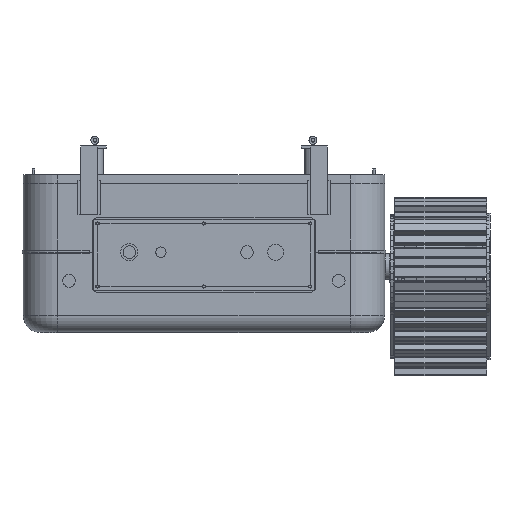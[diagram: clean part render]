
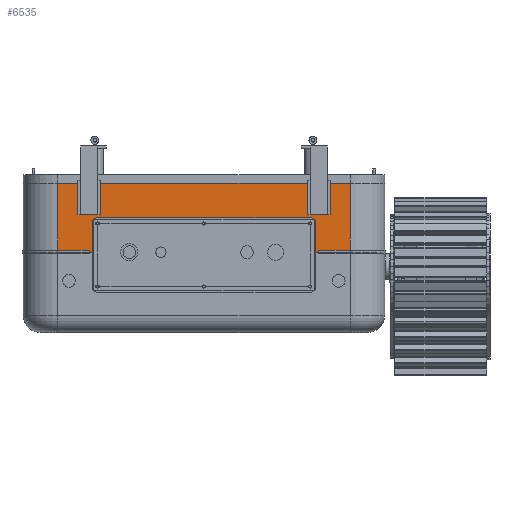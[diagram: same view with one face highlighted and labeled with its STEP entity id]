
A CAD part, left-side view. The second image highlights one B-rep face of the part: STEP entity #6535.
In plain terms, the highlighted planar face has unit normal (-1, 0, 0).
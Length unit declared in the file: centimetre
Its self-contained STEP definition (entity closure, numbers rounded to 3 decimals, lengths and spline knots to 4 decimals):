
#6535 = ADVANCED_FACE('',(#6536),#6550,.F.);
#6536 = FACE_BOUND('',#6537,.F.);
#6537 = EDGE_LOOP('',(#6538,#6573,#6599,#6625,#6651,#6677,#6703,#6731));
#6538 = ORIENTED_EDGE('',*,*,#6539,.F.);
#6539 = EDGE_CURVE('',#6540,#6542,#6544,.T.);
#6540 = VERTEX_POINT('',#6541);
#6541 = CARTESIAN_POINT('',(4.,-51.,43.));
#6542 = VERTEX_POINT('',#6543);
#6543 = CARTESIAN_POINT('',(4.,-51.,67.));
#6544 = SURFACE_CURVE('',#6545,(#6549,#6561),.PCURVE_S1.);
#6545 = LINE('',#6546,#6547);
#6546 = CARTESIAN_POINT('',(4.,-51.,15.));
#6547 = VECTOR('',#6548,0.1);
#6548 = DIRECTION('',(0.,0.,1.));
#6549 = PCURVE('',#6550,#6555);
#6550 = PLANE('',#6551);
#6551 = AXIS2_PLACEMENT_3D('',#6552,#6553,#6554);
#6552 = CARTESIAN_POINT('',(4.,-63.,15.));
#6553 = DIRECTION('',(1.,0.,0.));
#6554 = DIRECTION('',(0.,0.,1.));
#6555 = DEFINITIONAL_REPRESENTATION('',(#6556),#6560);
#6556 = LINE('',#6557,#6558);
#6557 = CARTESIAN_POINT('',(0.,-12.));
#6558 = VECTOR('',#6559,1.);
#6559 = DIRECTION('',(1.,0.));
#6560 = ( GEOMETRIC_REPRESENTATION_CONTEXT(2) 
PARAMETRIC_REPRESENTATION_CONTEXT() REPRESENTATION_CONTEXT('2D SPACE',''
  ) );
#6561 = PCURVE('',#6562,#6567);
#6562 = CYLINDRICAL_SURFACE('',#6563,12.);
#6563 = AXIS2_PLACEMENT_3D('',#6564,#6565,#6566);
#6564 = CARTESIAN_POINT('',(16.,-51.,15.));
#6565 = DIRECTION('',(0.,0.,1.));
#6566 = DIRECTION('',(-1.,-0.,0.));
#6567 = DEFINITIONAL_REPRESENTATION('',(#6568),#6572);
#6568 = LINE('',#6569,#6570);
#6569 = CARTESIAN_POINT('',(0.,0.));
#6570 = VECTOR('',#6571,1.);
#6571 = DIRECTION('',(0.,1.));
#6572 = ( GEOMETRIC_REPRESENTATION_CONTEXT(2) 
PARAMETRIC_REPRESENTATION_CONTEXT() REPRESENTATION_CONTEXT('2D SPACE',''
  ) );
#6573 = ORIENTED_EDGE('',*,*,#6574,.F.);
#6574 = EDGE_CURVE('',#6575,#6540,#6577,.T.);
#6575 = VERTEX_POINT('',#6576);
#6576 = CARTESIAN_POINT('',(4.,-38.,43.));
#6577 = SURFACE_CURVE('',#6578,(#6582,#6588),.PCURVE_S1.);
#6578 = LINE('',#6579,#6580);
#6579 = CARTESIAN_POINT('',(4.,-66.5,43.));
#6580 = VECTOR('',#6581,0.1);
#6581 = DIRECTION('',(0.,-1.,0.));
#6582 = PCURVE('',#6550,#6583);
#6583 = DEFINITIONAL_REPRESENTATION('',(#6584),#6587);
#6584 = B_SPLINE_CURVE_WITH_KNOTS('',1,(#6585,#6586),.UNSPECIFIED.,.F.,
  .F.,(2,2),(-1175.,-155.),.PIECEWISE_BEZIER_KNOTS.);
#6585 = CARTESIAN_POINT('',(28.,-114.));
#6586 = CARTESIAN_POINT('',(28.,-12.));
#6587 = ( GEOMETRIC_REPRESENTATION_CONTEXT(2) 
PARAMETRIC_REPRESENTATION_CONTEXT() REPRESENTATION_CONTEXT('2D SPACE',''
  ) );
#6588 = PCURVE('',#6589,#6594);
#6589 = PLANE('',#6590);
#6590 = AXIS2_PLACEMENT_3D('',#6591,#6592,#6593);
#6591 = CARTESIAN_POINT('',(0.,-70.,43.));
#6592 = DIRECTION('',(0.,0.,1.));
#6593 = DIRECTION('',(1.,0.,0.));
#6594 = DEFINITIONAL_REPRESENTATION('',(#6595),#6598);
#6595 = B_SPLINE_CURVE_WITH_KNOTS('',1,(#6596,#6597),.UNSPECIFIED.,.F.,
  .F.,(2,2),(-1175.,-155.),.PIECEWISE_BEZIER_KNOTS.);
#6596 = CARTESIAN_POINT('',(4.,121.));
#6597 = CARTESIAN_POINT('',(4.,19.));
#6598 = ( GEOMETRIC_REPRESENTATION_CONTEXT(2) 
PARAMETRIC_REPRESENTATION_CONTEXT() REPRESENTATION_CONTEXT('2D SPACE',''
  ) );
#6599 = ORIENTED_EDGE('',*,*,#6600,.T.);
#6600 = EDGE_CURVE('',#6575,#6601,#6603,.T.);
#6601 = VERTEX_POINT('',#6602);
#6602 = CARTESIAN_POINT('',(4.,-38.,54.));
#6603 = SURFACE_CURVE('',#6604,(#6608,#6614),.PCURVE_S1.);
#6604 = LINE('',#6605,#6606);
#6605 = CARTESIAN_POINT('',(4.,-38.,22.5));
#6606 = VECTOR('',#6607,0.1);
#6607 = DIRECTION('',(0.,0.,1.));
#6608 = PCURVE('',#6550,#6609);
#6609 = DEFINITIONAL_REPRESENTATION('',(#6610),#6613);
#6610 = B_SPLINE_CURVE_WITH_KNOTS('',1,(#6611,#6612),.UNSPECIFIED.,.F.,
  .F.,(2,2),(75.,315.),.PIECEWISE_BEZIER_KNOTS.);
#6611 = CARTESIAN_POINT('',(15.,-25.));
#6612 = CARTESIAN_POINT('',(39.,-25.));
#6613 = ( GEOMETRIC_REPRESENTATION_CONTEXT(2) 
PARAMETRIC_REPRESENTATION_CONTEXT() REPRESENTATION_CONTEXT('2D SPACE',''
  ) );
#6614 = PCURVE('',#6615,#6620);
#6615 = PLANE('',#6616);
#6616 = AXIS2_PLACEMENT_3D('',#6617,#6618,#6619);
#6617 = CARTESIAN_POINT('',(3.5,-38.,30.));
#6618 = DIRECTION('',(0.,1.,0.));
#6619 = DIRECTION('',(0.,0.,1.));
#6620 = DEFINITIONAL_REPRESENTATION('',(#6621),#6624);
#6621 = B_SPLINE_CURVE_WITH_KNOTS('',1,(#6622,#6623),.UNSPECIFIED.,.F.,
  .F.,(2,2),(75.,315.),.PIECEWISE_BEZIER_KNOTS.);
#6622 = CARTESIAN_POINT('',(0.,0.5));
#6623 = CARTESIAN_POINT('',(24.,0.5));
#6624 = ( GEOMETRIC_REPRESENTATION_CONTEXT(2) 
PARAMETRIC_REPRESENTATION_CONTEXT() REPRESENTATION_CONTEXT('2D SPACE',''
  ) );
#6625 = ORIENTED_EDGE('',*,*,#6626,.F.);
#6626 = EDGE_CURVE('',#6627,#6601,#6629,.T.);
#6627 = VERTEX_POINT('',#6628);
#6628 = CARTESIAN_POINT('',(4.,38.,54.));
#6629 = SURFACE_CURVE('',#6630,(#6634,#6640),.PCURVE_S1.);
#6630 = LINE('',#6631,#6632);
#6631 = CARTESIAN_POINT('',(4.,-50.5,54.));
#6632 = VECTOR('',#6633,0.1);
#6633 = DIRECTION('',(0.,-1.,0.));
#6634 = PCURVE('',#6550,#6635);
#6635 = DEFINITIONAL_REPRESENTATION('',(#6636),#6639);
#6636 = B_SPLINE_CURVE_WITH_KNOTS('',1,(#6637,#6638),.UNSPECIFIED.,.F.,
  .F.,(2,2),(-885.,-125.),.PIECEWISE_BEZIER_KNOTS.);
#6637 = CARTESIAN_POINT('',(39.,-101.));
#6638 = CARTESIAN_POINT('',(39.,-25.));
#6639 = ( GEOMETRIC_REPRESENTATION_CONTEXT(2) 
PARAMETRIC_REPRESENTATION_CONTEXT() REPRESENTATION_CONTEXT('2D SPACE',''
  ) );
#6640 = PCURVE('',#6641,#6646);
#6641 = PLANE('',#6642);
#6642 = AXIS2_PLACEMENT_3D('',#6643,#6644,#6645);
#6643 = CARTESIAN_POINT('',(3.5,-38.,54.));
#6644 = DIRECTION('',(0.,0.,1.));
#6645 = DIRECTION('',(1.,0.,0.));
#6646 = DEFINITIONAL_REPRESENTATION('',(#6647),#6650);
#6647 = B_SPLINE_CURVE_WITH_KNOTS('',1,(#6648,#6649),.UNSPECIFIED.,.F.,
  .F.,(2,2),(-885.,-125.),.PIECEWISE_BEZIER_KNOTS.);
#6648 = CARTESIAN_POINT('',(0.5,76.));
#6649 = CARTESIAN_POINT('',(0.5,0.));
#6650 = ( GEOMETRIC_REPRESENTATION_CONTEXT(2) 
PARAMETRIC_REPRESENTATION_CONTEXT() REPRESENTATION_CONTEXT('2D SPACE',''
  ) );
#6651 = ORIENTED_EDGE('',*,*,#6652,.F.);
#6652 = EDGE_CURVE('',#6653,#6627,#6655,.T.);
#6653 = VERTEX_POINT('',#6654);
#6654 = CARTESIAN_POINT('',(4.,38.,43.));
#6655 = SURFACE_CURVE('',#6656,(#6660,#6666),.PCURVE_S1.);
#6656 = LINE('',#6657,#6658);
#6657 = CARTESIAN_POINT('',(4.,38.,22.5));
#6658 = VECTOR('',#6659,0.1);
#6659 = DIRECTION('',(0.,0.,1.));
#6660 = PCURVE('',#6550,#6661);
#6661 = DEFINITIONAL_REPRESENTATION('',(#6662),#6665);
#6662 = B_SPLINE_CURVE_WITH_KNOTS('',1,(#6663,#6664),.UNSPECIFIED.,.F.,
  .F.,(2,2),(75.,315.),.PIECEWISE_BEZIER_KNOTS.);
#6663 = CARTESIAN_POINT('',(15.,-101.));
#6664 = CARTESIAN_POINT('',(39.,-101.));
#6665 = ( GEOMETRIC_REPRESENTATION_CONTEXT(2) 
PARAMETRIC_REPRESENTATION_CONTEXT() REPRESENTATION_CONTEXT('2D SPACE',''
  ) );
#6666 = PCURVE('',#6667,#6672);
#6667 = PLANE('',#6668);
#6668 = AXIS2_PLACEMENT_3D('',#6669,#6670,#6671);
#6669 = CARTESIAN_POINT('',(3.5,38.,30.));
#6670 = DIRECTION('',(0.,1.,0.));
#6671 = DIRECTION('',(0.,0.,1.));
#6672 = DEFINITIONAL_REPRESENTATION('',(#6673),#6676);
#6673 = B_SPLINE_CURVE_WITH_KNOTS('',1,(#6674,#6675),.UNSPECIFIED.,.F.,
  .F.,(2,2),(75.,315.),.PIECEWISE_BEZIER_KNOTS.);
#6674 = CARTESIAN_POINT('',(0.,0.5));
#6675 = CARTESIAN_POINT('',(24.,0.5));
#6676 = ( GEOMETRIC_REPRESENTATION_CONTEXT(2) 
PARAMETRIC_REPRESENTATION_CONTEXT() REPRESENTATION_CONTEXT('2D SPACE',''
  ) );
#6677 = ORIENTED_EDGE('',*,*,#6678,.F.);
#6678 = EDGE_CURVE('',#6679,#6653,#6681,.T.);
#6679 = VERTEX_POINT('',#6680);
#6680 = CARTESIAN_POINT('',(4.,51.,43.));
#6681 = SURFACE_CURVE('',#6682,(#6686,#6692),.PCURVE_S1.);
#6682 = LINE('',#6683,#6684);
#6683 = CARTESIAN_POINT('',(4.,-66.5,43.));
#6684 = VECTOR('',#6685,0.1);
#6685 = DIRECTION('',(0.,-1.,0.));
#6686 = PCURVE('',#6550,#6687);
#6687 = DEFINITIONAL_REPRESENTATION('',(#6688),#6691);
#6688 = B_SPLINE_CURVE_WITH_KNOTS('',1,(#6689,#6690),.UNSPECIFIED.,.F.,
  .F.,(2,2),(-1175.,-155.),.PIECEWISE_BEZIER_KNOTS.);
#6689 = CARTESIAN_POINT('',(28.,-114.));
#6690 = CARTESIAN_POINT('',(28.,-12.));
#6691 = ( GEOMETRIC_REPRESENTATION_CONTEXT(2) 
PARAMETRIC_REPRESENTATION_CONTEXT() REPRESENTATION_CONTEXT('2D SPACE',''
  ) );
#6692 = PCURVE('',#6693,#6698);
#6693 = PLANE('',#6694);
#6694 = AXIS2_PLACEMENT_3D('',#6695,#6696,#6697);
#6695 = CARTESIAN_POINT('',(0.,-70.,43.));
#6696 = DIRECTION('',(0.,0.,1.));
#6697 = DIRECTION('',(1.,0.,0.));
#6698 = DEFINITIONAL_REPRESENTATION('',(#6699),#6702);
#6699 = B_SPLINE_CURVE_WITH_KNOTS('',1,(#6700,#6701),.UNSPECIFIED.,.F.,
  .F.,(2,2),(-1175.,-155.),.PIECEWISE_BEZIER_KNOTS.);
#6700 = CARTESIAN_POINT('',(4.,121.));
#6701 = CARTESIAN_POINT('',(4.,19.));
#6702 = ( GEOMETRIC_REPRESENTATION_CONTEXT(2) 
PARAMETRIC_REPRESENTATION_CONTEXT() REPRESENTATION_CONTEXT('2D SPACE',''
  ) );
#6703 = ORIENTED_EDGE('',*,*,#6704,.T.);
#6704 = EDGE_CURVE('',#6679,#6705,#6707,.T.);
#6705 = VERTEX_POINT('',#6706);
#6706 = CARTESIAN_POINT('',(4.,51.,67.));
#6707 = SURFACE_CURVE('',#6708,(#6712,#6719),.PCURVE_S1.);
#6708 = LINE('',#6709,#6710);
#6709 = CARTESIAN_POINT('',(4.,51.,15.));
#6710 = VECTOR('',#6711,0.1);
#6711 = DIRECTION('',(0.,0.,1.));
#6712 = PCURVE('',#6550,#6713);
#6713 = DEFINITIONAL_REPRESENTATION('',(#6714),#6718);
#6714 = LINE('',#6715,#6716);
#6715 = CARTESIAN_POINT('',(0.,-114.));
#6716 = VECTOR('',#6717,1.);
#6717 = DIRECTION('',(1.,0.));
#6718 = ( GEOMETRIC_REPRESENTATION_CONTEXT(2) 
PARAMETRIC_REPRESENTATION_CONTEXT() REPRESENTATION_CONTEXT('2D SPACE',''
  ) );
#6719 = PCURVE('',#6720,#6725);
#6720 = CYLINDRICAL_SURFACE('',#6721,12.);
#6721 = AXIS2_PLACEMENT_3D('',#6722,#6723,#6724);
#6722 = CARTESIAN_POINT('',(16.,51.,15.));
#6723 = DIRECTION('',(0.,0.,1.));
#6724 = DIRECTION('',(-1.,-0.,0.));
#6725 = DEFINITIONAL_REPRESENTATION('',(#6726),#6730);
#6726 = LINE('',#6727,#6728);
#6727 = CARTESIAN_POINT('',(-0.,0.));
#6728 = VECTOR('',#6729,1.);
#6729 = DIRECTION('',(-0.,1.));
#6730 = ( GEOMETRIC_REPRESENTATION_CONTEXT(2) 
PARAMETRIC_REPRESENTATION_CONTEXT() REPRESENTATION_CONTEXT('2D SPACE',''
  ) );
#6731 = ORIENTED_EDGE('',*,*,#6732,.F.);
#6732 = EDGE_CURVE('',#6542,#6705,#6733,.T.);
#6733 = SURFACE_CURVE('',#6734,(#6738,#6745),.PCURVE_S1.);
#6734 = LINE('',#6735,#6736);
#6735 = CARTESIAN_POINT('',(4.,-63.,67.));
#6736 = VECTOR('',#6737,0.1);
#6737 = DIRECTION('',(0.,1.,0.));
#6738 = PCURVE('',#6550,#6739);
#6739 = DEFINITIONAL_REPRESENTATION('',(#6740),#6744);
#6740 = LINE('',#6741,#6742);
#6741 = CARTESIAN_POINT('',(52.,0.));
#6742 = VECTOR('',#6743,1.);
#6743 = DIRECTION('',(0.,-1.));
#6744 = ( GEOMETRIC_REPRESENTATION_CONTEXT(2) 
PARAMETRIC_REPRESENTATION_CONTEXT() REPRESENTATION_CONTEXT('2D SPACE',''
  ) );
#6745 = PCURVE('',#6746,#6751);
#6746 = PLANE('',#6747);
#6747 = AXIS2_PLACEMENT_3D('',#6748,#6749,#6750);
#6748 = CARTESIAN_POINT('',(4.,-63.,67.));
#6749 = DIRECTION('',(0.,0.,1.));
#6750 = DIRECTION('',(1.,0.,0.));
#6751 = DEFINITIONAL_REPRESENTATION('',(#6752),#6756);
#6752 = LINE('',#6753,#6754);
#6753 = CARTESIAN_POINT('',(0.,0.));
#6754 = VECTOR('',#6755,1.);
#6755 = DIRECTION('',(0.,1.));
#6756 = ( GEOMETRIC_REPRESENTATION_CONTEXT(2) 
PARAMETRIC_REPRESENTATION_CONTEXT() REPRESENTATION_CONTEXT('2D SPACE',''
  ) );
